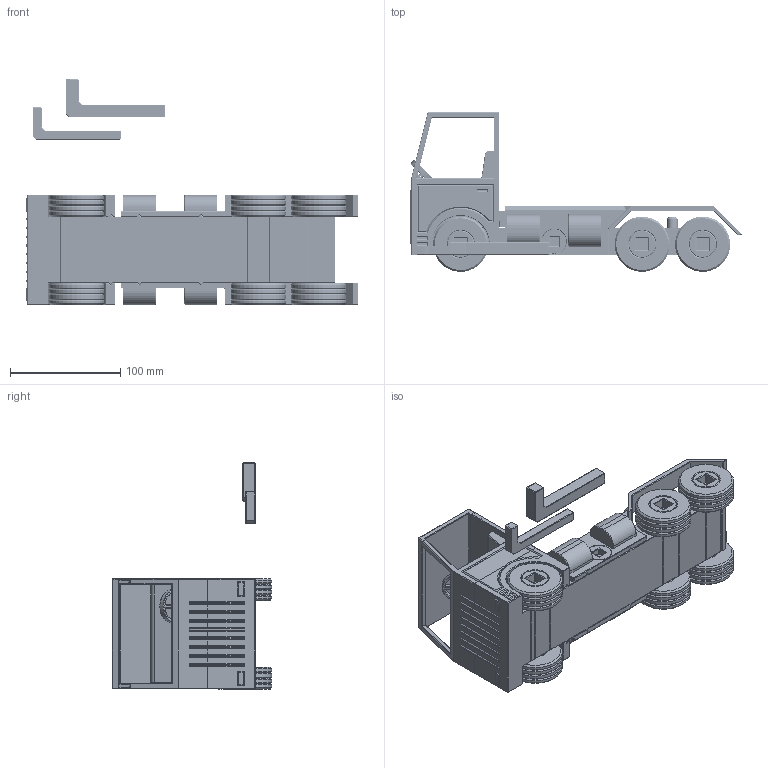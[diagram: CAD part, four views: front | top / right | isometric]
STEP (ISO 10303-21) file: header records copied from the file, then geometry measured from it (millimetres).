
FILE_DESCRIPTION(/* description */ (''),/* implementation_level */ '2;1');
FILE_NAME(/* name */ 'G:/Massenspeicher/3D/Models/Eigene/Modular_Truck/00_Base_Truck/1.0.0/Base_Truck.step',/* time_stamp */ '2019-06-16T16:42:42+02:00',/* author */ (''),/* organization */ (''),/* preprocessor_version */ 'ST-DEVELOPER v18',/* originating_system */ 'Autodesk Translation Framework v8.2.0.1029',/* authorisation */ '');
FILE_SCHEMA (('AUTOMOTIVE_DESIGN { 1 0 10303 214 3 1 1 }'));
Products named in the file (14): Base_Truck; 00_Mainframe; 00_Axles; 00_Wheels; 00_Wheelscrews; 00_Axlescrews; 00_Cabin; 00_Cabinholder; 00_Cabinscrew; 00_Fender_L; 00_Fender_R; 00_Fenderscrews; 00_Steering-Wheel; 00_Keys
Assembly tree (13 placements, depth 2):
  Base_Truck
    00_Mainframe
    00_Axles
    00_Wheels
    00_Wheelscrews
    00_Axlescrews
    00_Cabin
    00_Cabinholder
    00_Cabinscrew
    00_Fender_L
    00_Fender_R
    00_Fenderscrews
    00_Steering-Wheel
    00_Keys
Bounding box: 301.81 x 145 x 205.81 mm (x, y, z)
Volume: 1152650.3 mm3; surface area: 322508.5 mm2
Topology: 31 solids, 31 shells, 2105 faces, 5058 edges, 3084 vertices
Faces by surface type: plane 1279, cylinder 578, cone 187, bspline 61
Full cylindrical faces by diameter (mm): 4.5 x2, 6 x1, 10 x4, 10.1 x2, 13.534 x101, 14.023 x99, 15.822 x83, 16.1 x1, 16.2 x2, 16.25 x63, 16.251 x54, 16.5 x3, 19.5 x6, 20.1 x6, 24.5 x6, 25.1 x6, 30 x1, 50 x24
Entity records: 120468 total; most frequent: CARTESIAN_POINT 73296, ORIENTED_EDGE 10136, DIRECTION 8695, EDGE_CURVE 5068, LINE 3355, VECTOR 3355, VERTEX_POINT 3094, AXIS2_PLACEMENT_3D 2670
